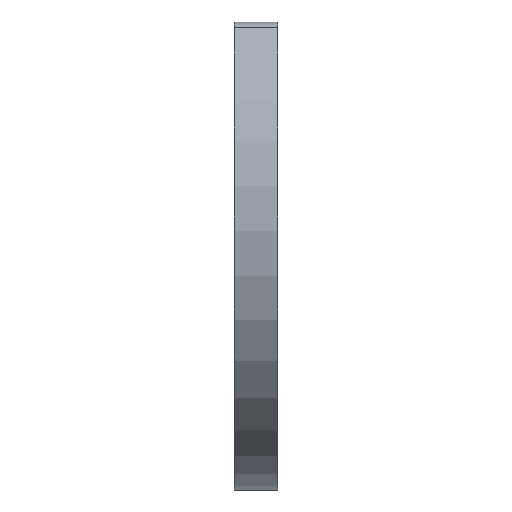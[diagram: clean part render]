
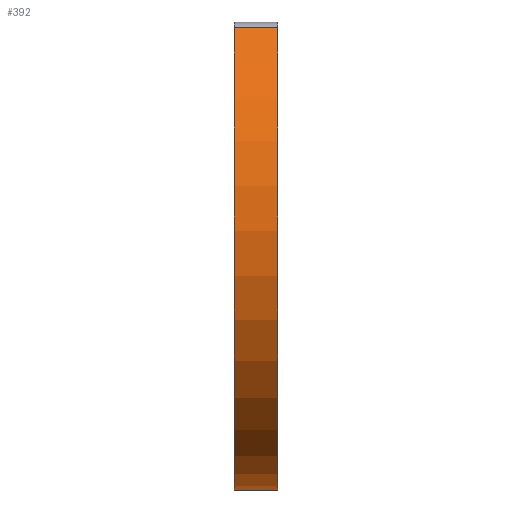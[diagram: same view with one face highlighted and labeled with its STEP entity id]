
A CAD part, left-side view. The second image highlights one B-rep face of the part: STEP entity #392.
In plain terms, the highlighted cylindrical face has radius 3.65 mm (diameter 7.3 mm), a partial arc.
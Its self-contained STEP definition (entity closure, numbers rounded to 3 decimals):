
#10 = DIRECTION ( 'NONE',  ( 0., 1., 0. ) ) ;
#33 = CYLINDRICAL_SURFACE ( 'NONE', #631, 3.65 ) ;
#54 = CARTESIAN_POINT ( 'NONE',  ( 0., 0.3, -3.65 ) ) ;
#92 = AXIS2_PLACEMENT_3D ( 'NONE', #224, #10, #156 ) ;
#103 = DIRECTION ( 'NONE',  ( 0., -1., 0. ) ) ;
#107 = VERTEX_POINT ( 'NONE', #691 ) ;
#113 = DIRECTION ( 'NONE',  ( 0., 1., 0. ) ) ;
#156 = DIRECTION ( 'NONE',  ( 0., 0., 1. ) ) ;
#199 = LINE ( 'NONE', #781, #395 ) ;
#203 = EDGE_LOOP ( 'NONE', ( #658, #921, #695, #743 ) ) ;
#216 = VERTEX_POINT ( 'NONE', #593 ) ;
#224 = CARTESIAN_POINT ( 'NONE',  ( 0., 0.3, 0. ) ) ;
#226 = FACE_OUTER_BOUND ( 'NONE', #203, .T. ) ;
#253 = CARTESIAN_POINT ( 'NONE',  ( -2.46, 0.3, 2.697 ) ) ;
#257 = DIRECTION ( 'NONE',  ( 0., 0., 1. ) ) ;
#259 = CIRCLE ( 'NONE', #847, 3.65 ) ;
#382 = VECTOR ( 'NONE', #553, 1000. ) ;
#385 = CARTESIAN_POINT ( 'NONE',  ( 0., 0.3, 0. ) ) ;
#392 = ADVANCED_FACE ( 'NONE', ( #226 ), #33, .T. ) ;
#395 = VECTOR ( 'NONE', #511, 1000. ) ;
#453 = CIRCLE ( 'NONE', #92, 3.65 ) ;
#511 = DIRECTION ( 'NONE',  ( 0., -1., 0. ) ) ;
#530 = VERTEX_POINT ( 'NONE', #54 ) ;
#543 = EDGE_CURVE ( 'NONE', #586, #107, #259, .T. ) ;
#551 = CARTESIAN_POINT ( 'NONE',  ( 0., -0.3, 0. ) ) ;
#553 = DIRECTION ( 'NONE',  ( 0., 1., 0. ) ) ;
#559 = EDGE_CURVE ( 'NONE', #107, #216, #582, .T. ) ;
#569 = EDGE_CURVE ( 'NONE', #530, #586, #199, .T. ) ;
#582 = LINE ( 'NONE', #253, #382 ) ;
#586 = VERTEX_POINT ( 'NONE', #647 ) ;
#593 = CARTESIAN_POINT ( 'NONE',  ( -2.46, 0.3, 2.697 ) ) ;
#618 = DIRECTION ( 'NONE',  ( 0., 0., -1. ) ) ;
#631 = AXIS2_PLACEMENT_3D ( 'NONE', #385, #103, #618 ) ;
#647 = CARTESIAN_POINT ( 'NONE',  ( 0., -0.3, -3.65 ) ) ;
#658 = ORIENTED_EDGE ( 'NONE', *, *, #693, .F. ) ;
#691 = CARTESIAN_POINT ( 'NONE',  ( -2.46, -0.3, 2.697 ) ) ;
#693 = EDGE_CURVE ( 'NONE', #530, #216, #453, .T. ) ;
#695 = ORIENTED_EDGE ( 'NONE', *, *, #543, .T. ) ;
#743 = ORIENTED_EDGE ( 'NONE', *, *, #559, .T. ) ;
#781 = CARTESIAN_POINT ( 'NONE',  ( 0., 0.3, -3.65 ) ) ;
#847 = AXIS2_PLACEMENT_3D ( 'NONE', #551, #113, #257 ) ;
#921 = ORIENTED_EDGE ( 'NONE', *, *, #569, .T. ) ;
